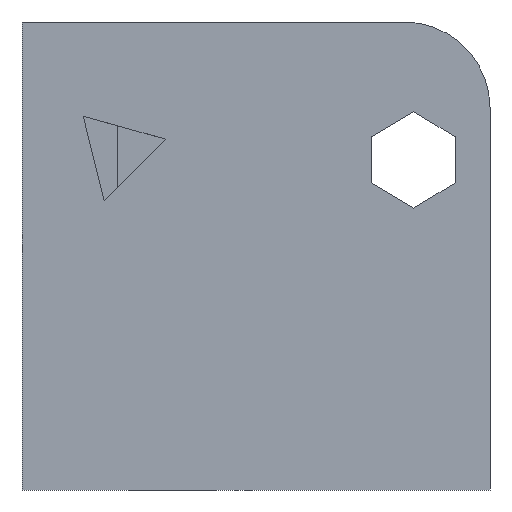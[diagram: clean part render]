
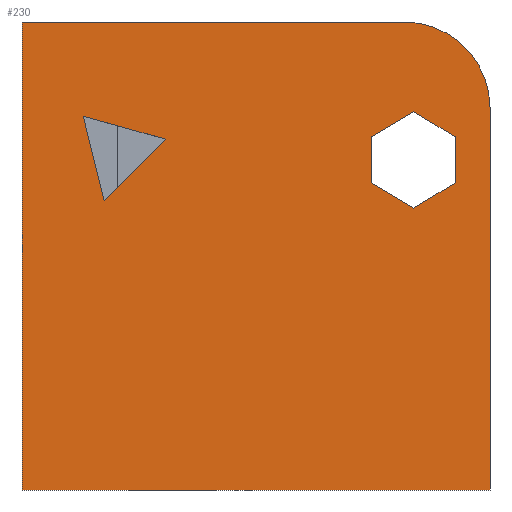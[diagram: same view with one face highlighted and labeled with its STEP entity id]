
A CAD part, front view. The second image highlights one B-rep face of the part: STEP entity #230.
In plain terms, the highlighted planar face has unit normal (0, -1, 0).
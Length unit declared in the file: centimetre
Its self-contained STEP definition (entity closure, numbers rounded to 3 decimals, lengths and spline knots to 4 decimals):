
#7 = EDGE_CURVE ( 'NONE', #480, #667, #939, .T. ) ;
#10 = ORIENTED_EDGE ( 'NONE', *, *, #704, .F. ) ;
#11 = EDGE_CURVE ( 'NONE', #752, #78, #820, .T. ) ;
#17 = LINE ( 'NONE', #1042, #1311 ) ;
#40 = VECTOR ( 'NONE', #719, 100. ) ;
#47 = DIRECTION ( 'NONE',  ( 1., 0., 0. ) ) ;
#53 = EDGE_LOOP ( 'NONE', ( #111, #499, #1172 ) ) ;
#54 = CARTESIAN_POINT ( 'NONE',  ( 837.4416, 0., 808.3411 ) ) ;
#65 = CARTESIAN_POINT ( 'NONE',  ( 1000., 0., 816.917 ) ) ;
#69 = ORIENTED_EDGE ( 'NONE', *, *, #762, .T. ) ;
#77 = CARTESIAN_POINT ( 'NONE',  ( 746.9165, 0., 656.1491 ) ) ;
#78 = VERTEX_POINT ( 'NONE', #819 ) ;
#92 = ORIENTED_EDGE ( 'NONE', *, *, #101, .T. ) ;
#97 = DIRECTION ( 'NONE',  ( 0.24, 0., -0.971 ) ) ;
#101 = EDGE_CURVE ( 'NONE', #1040, #728, #592, .T. ) ;
#110 = EDGE_CURVE ( 'NONE', #229, #728, #1002, .T. ) ;
#111 = ORIENTED_EDGE ( 'NONE', *, *, #7, .F. ) ;
#113 = DIRECTION ( 'NONE',  ( 0., 0., -1. ) ) ;
#117 = LINE ( 'NONE', #734, #638 ) ;
#161 = CARTESIAN_POINT ( 'NONE',  ( 816.917, 0., 816.917 ) ) ;
#163 = CARTESIAN_POINT ( 'NONE',  ( 837.4416, 0., 602.3504 ) ) ;
#164 = ORIENTED_EDGE ( 'NONE', *, *, #1150, .F. ) ;
#195 = CARTESIAN_POINT ( 'NONE',  ( 837.4416, 0., 602.3504 ) ) ;
#204 = EDGE_CURVE ( 'NONE', #1152, #823, #583, .T. ) ;
#205 = DIRECTION ( 'NONE',  ( 0., 0., 1. ) ) ;
#208 = CARTESIAN_POINT ( 'NONE',  ( 925.3096, 0., 656.1491 ) ) ;
#229 = VERTEX_POINT ( 'NONE', #420 ) ;
#230 = ADVANCED_FACE ( 'NONE', ( #1265, #521, #312 ), #732, .F. ) ;
#245 = CARTESIAN_POINT ( 'NONE',  ( 746.9165, 0., 754.5423 ) ) ;
#249 = LINE ( 'NONE', #1298, #651 ) ;
#256 = ORIENTED_EDGE ( 'NONE', *, *, #785, .F. ) ;
#257 = ORIENTED_EDGE ( 'NONE', *, *, #204, .F. ) ;
#259 = VECTOR ( 'NONE', #514, 100. ) ;
#311 = LINE ( 'NONE', #844, #1206 ) ;
#312 = FACE_OUTER_BOUND ( 'NONE', #1315, .T. ) ;
#321 = DIRECTION ( 'NONE',  ( 0., 0., -1. ) ) ;
#329 = VECTOR ( 'NONE', #113, 100. ) ;
#342 = EDGE_CURVE ( 'NONE', #667, #935, #858, .T. ) ;
#408 = ORIENTED_EDGE ( 'NONE', *, *, #1165, .T. ) ;
#420 = CARTESIAN_POINT ( 'NONE',  ( 0., 0., 1000. ) ) ;
#442 = DIRECTION ( 'NONE',  ( 0.707, 0., 0.707 ) ) ;
#457 = CARTESIAN_POINT ( 'NONE',  ( 1000., 0., 0. ) ) ;
#468 = EDGE_CURVE ( 'NONE', #1003, #956, #1196, .T. ) ;
#478 = CARTESIAN_POINT ( 'NONE',  ( 746.9165, 0., 656.1491 ) ) ;
#480 = VERTEX_POINT ( 'NONE', #878 ) ;
#497 = LINE ( 'NONE', #163, #1115 ) ;
#499 = ORIENTED_EDGE ( 'NONE', *, *, #799, .F. ) ;
#505 = VERTEX_POINT ( 'NONE', #457 ) ;
#506 = CARTESIAN_POINT ( 'NONE',  ( 175.2881, 0., 618.9814 ) ) ;
#514 = DIRECTION ( 'NONE',  ( -0.853, 0., 0.522 ) ) ;
#521 = FACE_BOUND ( 'NONE', #53, .T. ) ;
#527 = DIRECTION ( 'NONE',  ( 0., 0., -1. ) ) ;
#528 = CARTESIAN_POINT ( 'NONE',  ( 0., 0., 1000. ) ) ;
#537 = CARTESIAN_POINT ( 'NONE',  ( 925.3096, 0., 754.5423 ) ) ;
#583 = LINE ( 'NONE', #478, #876 ) ;
#592 = CIRCLE ( 'NONE', #1117, 183.083 ) ;
#638 = VECTOR ( 'NONE', #1161, 100. ) ;
#651 = VECTOR ( 'NONE', #47, 100. ) ;
#667 = VERTEX_POINT ( 'NONE', #506 ) ;
#669 = CARTESIAN_POINT ( 'NONE',  ( 306.1372, 0., 749.8304 ) ) ;
#697 = DIRECTION ( 'NONE',  ( 1., 0., 0. ) ) ;
#704 = EDGE_CURVE ( 'NONE', #78, #1003, #794, .T. ) ;
#711 = CARTESIAN_POINT ( 'NONE',  ( 130.9444, 0., 798.6758 ) ) ;
#719 = DIRECTION ( 'NONE',  ( 0., 0., 1. ) ) ;
#728 = VERTEX_POINT ( 'NONE', #847 ) ;
#732 = PLANE ( 'NONE',  #1071 ) ;
#734 = CARTESIAN_POINT ( 'NONE',  ( 306.1372, 0., 749.8304 ) ) ;
#745 = EDGE_CURVE ( 'NONE', #956, #1152, #17, .T. ) ;
#752 = VERTEX_POINT ( 'NONE', #208 ) ;
#762 = EDGE_CURVE ( 'NONE', #229, #1012, #957, .T. ) ;
#779 = DIRECTION ( 'NONE',  ( 0.853, 0., 0.522 ) ) ;
#785 = EDGE_CURVE ( 'NONE', #1040, #505, #311, .T. ) ;
#794 = LINE ( 'NONE', #537, #259 ) ;
#799 = EDGE_CURVE ( 'NONE', #935, #480, #117, .T. ) ;
#800 = ORIENTED_EDGE ( 'NONE', *, *, #11, .F. ) ;
#803 = DIRECTION ( 'NONE',  ( 0., -1., 0. ) ) ;
#819 = CARTESIAN_POINT ( 'NONE',  ( 925.3096, 0., 754.5423 ) ) ;
#820 = LINE ( 'NONE', #827, #40 ) ;
#823 = VERTEX_POINT ( 'NONE', #195 ) ;
#827 = CARTESIAN_POINT ( 'NONE',  ( 925.3096, 0., 656.1491 ) ) ;
#844 = CARTESIAN_POINT ( 'NONE',  ( 1000., 0., 1000. ) ) ;
#847 = CARTESIAN_POINT ( 'NONE',  ( 816.917, 0., 1000. ) ) ;
#858 = LINE ( 'NONE', #1067, #1183 ) ;
#875 = VECTOR ( 'NONE', #697, 100. ) ;
#876 = VECTOR ( 'NONE', #1109, 100. ) ;
#878 = CARTESIAN_POINT ( 'NONE',  ( 130.9444, 0., 798.6758 ) ) ;
#880 = ORIENTED_EDGE ( 'NONE', *, *, #110, .F. ) ;
#935 = VERTEX_POINT ( 'NONE', #669 ) ;
#939 = LINE ( 'NONE', #711, #1180 ) ;
#949 = CARTESIAN_POINT ( 'NONE',  ( 0., 0., 1000. ) ) ;
#950 = DIRECTION ( 'NONE',  ( 0., 1., 0. ) ) ;
#956 = VERTEX_POINT ( 'NONE', #245 ) ;
#957 = LINE ( 'NONE', #949, #329 ) ;
#999 = CARTESIAN_POINT ( 'NONE',  ( 0., 0., 0. ) ) ;
#1002 = LINE ( 'NONE', #1017, #875 ) ;
#1003 = VERTEX_POINT ( 'NONE', #54 ) ;
#1012 = VERTEX_POINT ( 'NONE', #999 ) ;
#1017 = CARTESIAN_POINT ( 'NONE',  ( 0., 0., 1000. ) ) ;
#1040 = VERTEX_POINT ( 'NONE', #65 ) ;
#1042 = CARTESIAN_POINT ( 'NONE',  ( 746.9165, 0., 754.5423 ) ) ;
#1067 = CARTESIAN_POINT ( 'NONE',  ( 175.2881, 0., 618.9814 ) ) ;
#1071 = AXIS2_PLACEMENT_3D ( 'NONE', #528, #950, #205 ) ;
#1076 = DIRECTION ( 'NONE',  ( -0.86, 0., -0.511 ) ) ;
#1077 = ORIENTED_EDGE ( 'NONE', *, *, #468, .F. ) ;
#1092 = VECTOR ( 'NONE', #1076, 100. ) ;
#1109 = DIRECTION ( 'NONE',  ( 0.86, 0., -0.511 ) ) ;
#1115 = VECTOR ( 'NONE', #779, 100. ) ;
#1117 = AXIS2_PLACEMENT_3D ( 'NONE', #161, #803, #1234 ) ;
#1150 = EDGE_CURVE ( 'NONE', #823, #752, #497, .T. ) ;
#1152 = VERTEX_POINT ( 'NONE', #77 ) ;
#1161 = DIRECTION ( 'NONE',  ( -0.963, 0., 0.269 ) ) ;
#1165 = EDGE_CURVE ( 'NONE', #1012, #505, #249, .T. ) ;
#1172 = ORIENTED_EDGE ( 'NONE', *, *, #342, .F. ) ;
#1180 = VECTOR ( 'NONE', #97, 100. ) ;
#1183 = VECTOR ( 'NONE', #442, 100. ) ;
#1188 = CARTESIAN_POINT ( 'NONE',  ( 837.4416, 0., 808.3411 ) ) ;
#1196 = LINE ( 'NONE', #1188, #1092 ) ;
#1206 = VECTOR ( 'NONE', #321, 100. ) ;
#1234 = DIRECTION ( 'NONE',  ( 0., 0., 1. ) ) ;
#1265 = FACE_BOUND ( 'NONE', #1299, .T. ) ;
#1298 = CARTESIAN_POINT ( 'NONE',  ( 0., 0., 0. ) ) ;
#1299 = EDGE_LOOP ( 'NONE', ( #10, #800, #164, #257, #1328, #1077 ) ) ;
#1311 = VECTOR ( 'NONE', #527, 100. ) ;
#1315 = EDGE_LOOP ( 'NONE', ( #256, #92, #880, #69, #408 ) ) ;
#1328 = ORIENTED_EDGE ( 'NONE', *, *, #745, .F. ) ;
